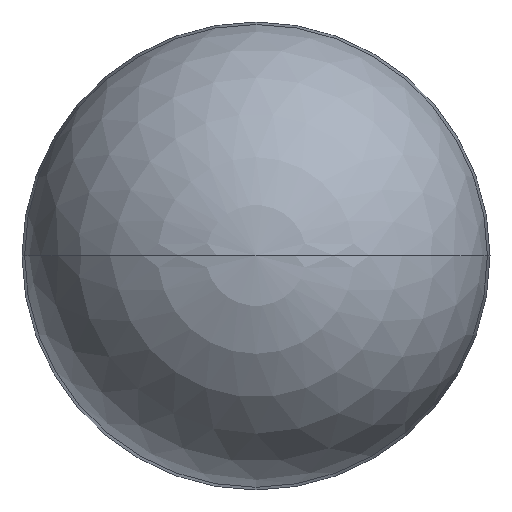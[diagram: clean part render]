
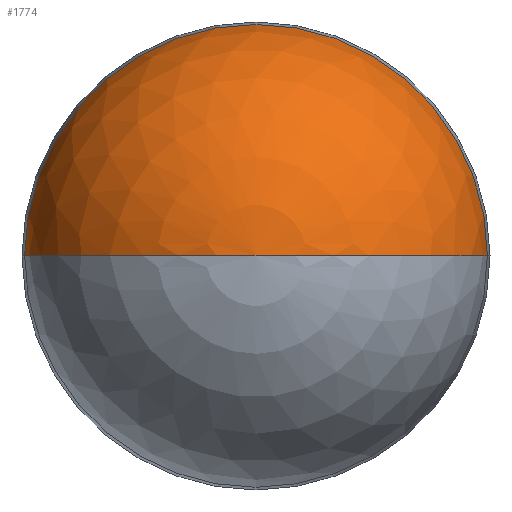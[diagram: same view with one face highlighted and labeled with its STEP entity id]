
A CAD part, top view. The second image highlights one B-rep face of the part: STEP entity #1774.
In plain terms, the highlighted spherical face has radius 62.1 mm.
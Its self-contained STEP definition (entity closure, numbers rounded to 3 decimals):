
#1647=CARTESIAN_POINT('',(0.,0.,
-44.171));
#1648=DIRECTION('',(0.,1.,0.));
#1649=DIRECTION('',(0.,0.,1.));
#1650=AXIS2_PLACEMENT_3D('',#1647,#1648,#1649);
#1652=CARTESIAN_POINT('',(0.,0.,
-42.004));
#1653=DIRECTION('',(0.,0.,-1.));
#1654=DIRECTION('',(-1.,0.,0.));
#1655=AXIS2_PLACEMENT_3D('',#1652,#1653,#1654);
#1657=CARTESIAN_POINT('',(0.,0.,
-44.171));
#1658=DIRECTION('',(0.,-1.,0.));
#1659=DIRECTION('',(0.,0.,1.));
#1660=AXIS2_PLACEMENT_3D('',#1657,#1658,#1659);
#1714=CARTESIAN_POINT('',(62.062,0.,
-42.004));
#1715=CARTESIAN_POINT('',(-62.062,0.,
-42.004));
#1716=VERTEX_POINT('',#1714);
#1717=VERTEX_POINT('',#1715);
#1722=CARTESIAN_POINT('',(0.,0.,
17.929));
#1723=VERTEX_POINT('',#1722);
#1763=CARTESIAN_POINT('',(0.,0.,
-44.171));
#1764=DIRECTION('',(0.,0.,1.));
#1765=DIRECTION('',(1.,0.,0.));
#1766=AXIS2_PLACEMENT_3D('',#1763,#1764,#1765);
#1767=SPHERICAL_SURFACE('',#1766,62.1);
#1769=ORIENTED_EDGE('',*,*,#1768,.T.);
#1770=ORIENTED_EDGE('',*,*,#1758,.F.);
#1771=ORIENTED_EDGE('',*,*,#1756,.T.);
#1772=EDGE_LOOP('',(#1769,#1770,#1771));
#1773=FACE_OUTER_BOUND('',#1772,.F.);
#1774=ADVANCED_FACE('',(#1773),#1767,.T.);
#1651=CIRCLE('',#1650,62.1);
#1656=CIRCLE('',#1655,62.062);
#1661=CIRCLE('',#1660,62.1);
#1756=EDGE_CURVE('',#1723,#1717,#1661,.T.);
#1758=EDGE_CURVE('',#1723,#1716,#1651,.T.);
#1768=EDGE_CURVE('',#1717,#1716,#1656,.T.);
